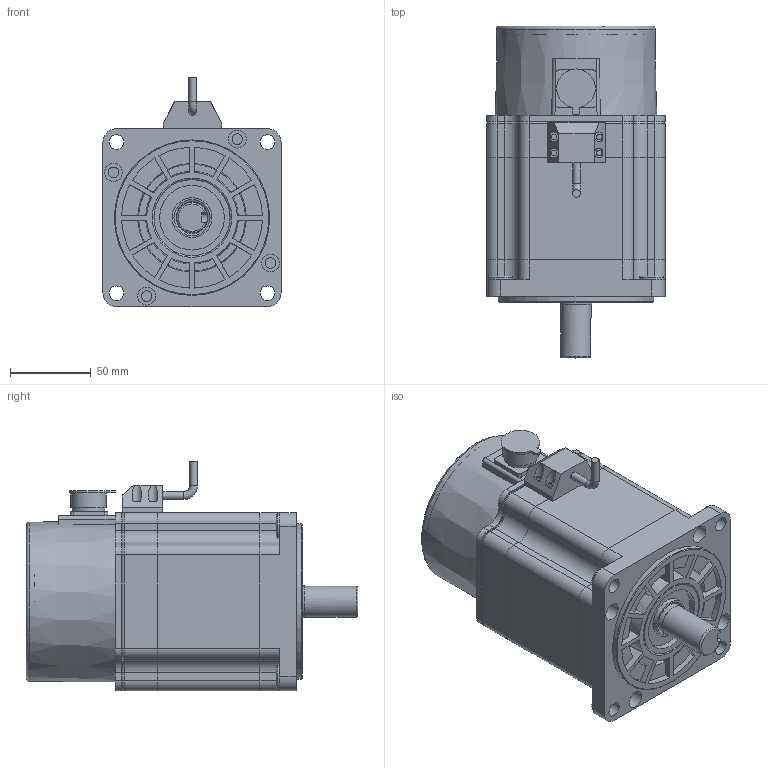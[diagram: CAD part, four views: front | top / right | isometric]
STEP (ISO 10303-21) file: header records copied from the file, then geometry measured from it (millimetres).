
FILE_DESCRIPTION(/* description */ (''),/* implementation_level */ '2;1');
FILE_NAME(/* name */ '110BYG350A(止口φ95).stp',/* time_stamp */ '2024-08-16T09:53:07+08:00',/* author */ (''),/* organization */ (''),/* preprocessor_version */ 'ST-DEVELOPER v18.1',/* originating_system */ 'SIEMENS PLM Software NX 2000',/* authorisation */ '');
FILE_SCHEMA (('AUTOMOTIVE_DESIGN { 1 0 10303 214 3 1 1 1 }'));
Length unit declared in the file: millimetre
Products named in the file (1): 925032A4A3696tkt
Bounding box: 110 x 205 x 141.72 mm (x, y, z)
Volume: 1111841.5 mm3; surface area: 216276.7 mm2
Topology: 10 solids, 10 shells, 669 faces, 1833 edges, 1216 vertices
Faces by surface type: plane 425, cylinder 178, torus 33, cone 33
Full cylindrical faces by diameter (mm): 3 x4, 3.5 x4, 4.8 x2, 6 x4, 6.5 x12, 7 x1, 9 x4, 11 x4, 15 x4, 16.5 x1, 19 x1, 19.7 x1, 20 x1, 20.196 x2, 22.032 x1, 22.288 x1, 24.616 x1, 40 x1, 47 x3, 50 x1, 56 x1, 69 x1, 70 x1, 96 x1
Entity records: 21488 total; most frequent: CARTESIAN_POINT 4448, DIRECTION 3432, ORIENTED_EDGE 3420, EDGE_CURVE 1710, VERTEX_POINT 1172, AXIS2_PLACEMENT_3D 1158, LINE 1116, VECTOR 1116
